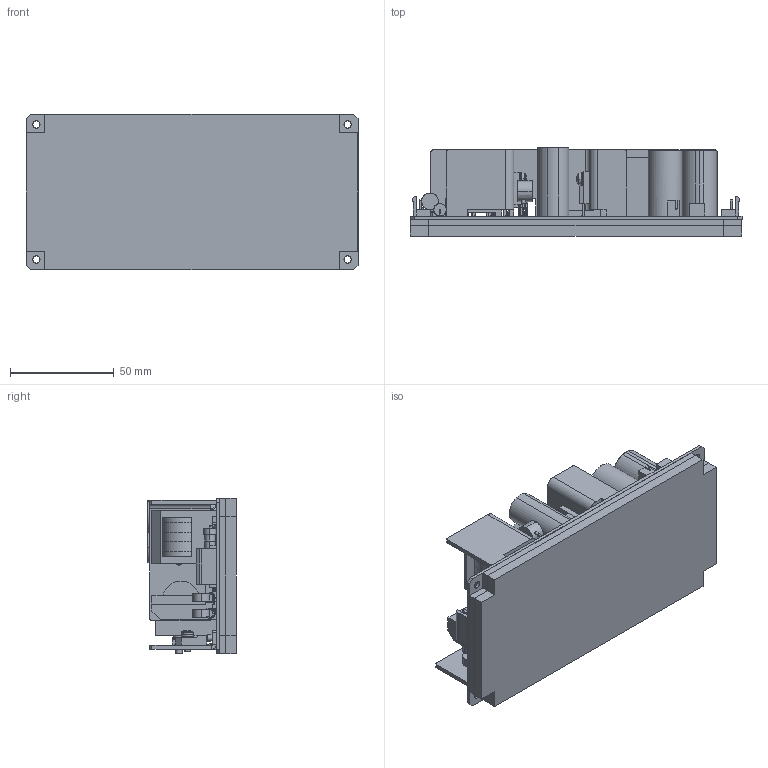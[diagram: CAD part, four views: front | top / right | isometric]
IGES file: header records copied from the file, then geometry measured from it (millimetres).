
Start section: SolidWorks IGES file using analytic representation for surfaces
Global section: file name: C:\zws150baf_outline.IGS; native system: SolidWorks 2010; preprocessor: SolidWorks 2010; author: 46000842; date: 100930.160831; units: millimetre
Bounding box: 160 x 42.6 x 75 mm (x, y, z)
Surface area: 104420.1 mm2 (no closed solid volume)
Topology: 0 solids, 0 shells, 1535 faces, 14372 edges, 14356 vertices
Faces by surface type: bspline 1115, revolution 420
